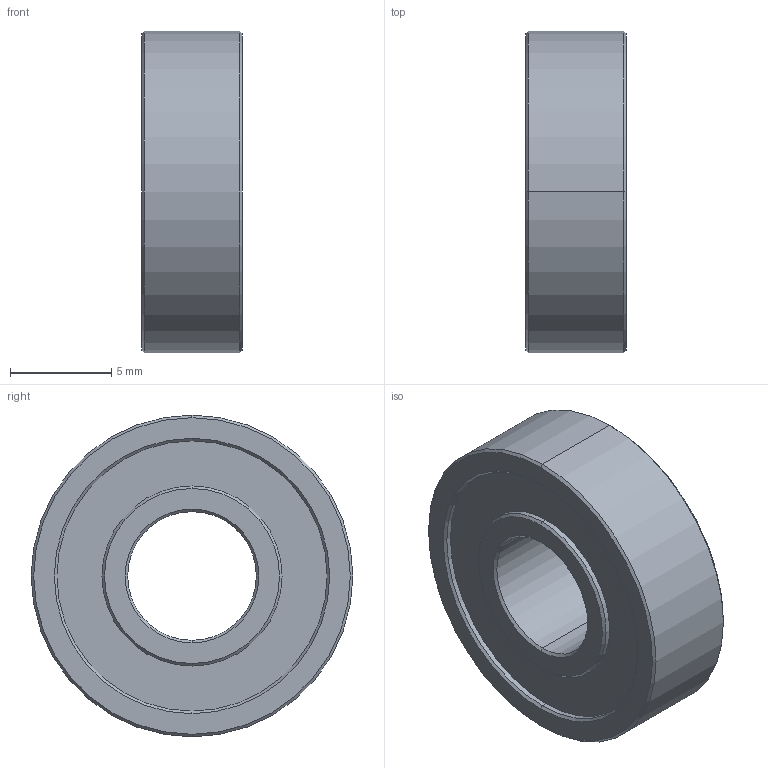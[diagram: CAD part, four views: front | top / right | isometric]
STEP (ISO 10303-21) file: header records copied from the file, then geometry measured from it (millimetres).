
FILE_DESCRIPTION (( 'STEP AP214' ), '1' );
FILE_NAME ('250x625x195_bearing.STEP', '2015-04-17T00:01:31', ( '' ), ( '' ), 'SwSTEP 2.0', 'SolidWorks 2012', '' );
FILE_SCHEMA (( 'AUTOMOTIVE_DESIGN' ));
Length unit declared in the file: inch
Products named in the file (1): 250x625x195_bearing
Bounding box: 4.95 x 15.88 x 15.88 mm (x, y, z)
Volume: 762.1 mm3; surface area: 710.8 mm2
Topology: 1 solids, 1 shells, 34 faces, 68 edges, 40 vertices
Faces by surface type: cone 16, cylinder 12, plane 6
Entity records: 928 total; most frequent: DIRECTION 178, CARTESIAN_POINT 143, ORIENTED_EDGE 136, AXIS2_PLACEMENT_3D 75, EDGE_CURVE 68, EDGE_LOOP 40, VERTEX_POINT 40, CIRCLE 40
